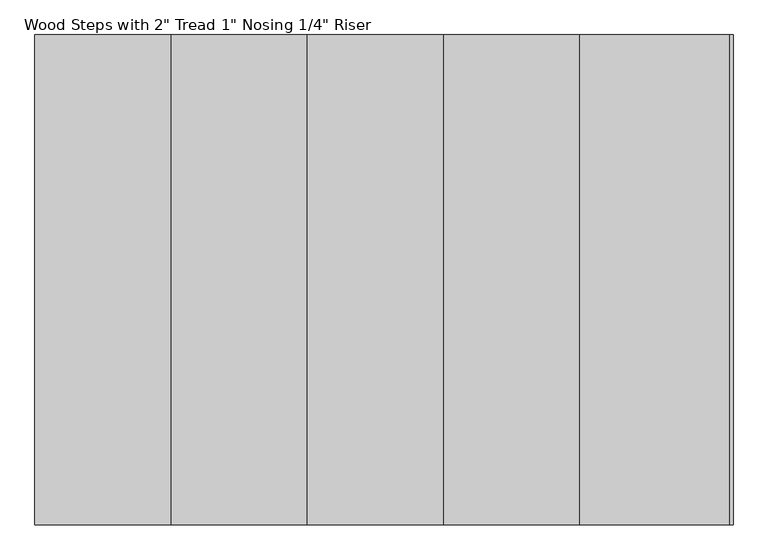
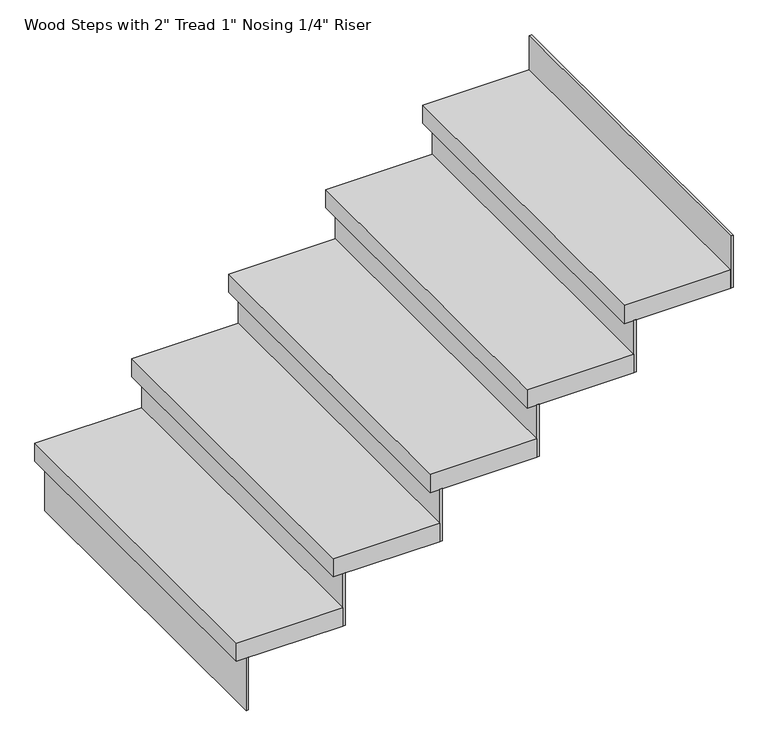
"""IFC4 building model written with IfcOpenShell, lengths in millimetres: stair flight geometry."""

from ifc_helpers import new_model, si_unit, frame, origin, place, context, project, spatial, polyline, outline, extrude, source, transform, mapped, element, save


def stair_flight_eac4b940(model_context):
    return source(origin(), model_context, "Body", "SweptSolid", [
        extrude(outline(polyline([(-19086.4665976, 14638.5127053), (-19092.8165976, 14638.5127053), (-19092.8165976, 15552.9127053), (-19086.4665976, 15552.9127053), (-19086.4665976, 14638.5127053)])), frame((0.0, 0.0, 2126.3428571), z_axis=(0.0, 0.0, 1.0), x_axis=(1.0, 0.0, 0.0)), (0.0, 0.0, 1.0), 145.1428571),
        extrude(outline(polyline([(-18838.8165976, 15552.9127053), (-18838.8165976, 14638.5127053), (-19118.2165976, 14638.5127053), (-19118.2165976, 15552.9127053), (-18838.8165976, 15552.9127053)])), frame((0.0, 0.0, 2271.4857143), z_axis=(0.0, 0.0, 1.0), x_axis=(1.0, 0.0, 0.0)), (0.0, 0.0, 1.0), 50.8),
        extrude(outline(polyline([(-18832.4665976, 14638.5127053), (-18838.8165976, 14638.5127053), (-18838.8165976, 15552.9127053), (-18832.4665976, 15552.9127053), (-18832.4665976, 14638.5127053)])), frame((0.0, 0.0, 2271.4857143), z_axis=(0.0, 0.0, 1.0), x_axis=(1.0, 0.0, 0.0)), (0.0, 0.0, 1.0), 145.1428571),
        extrude(outline(polyline([(-18584.8165976, 15552.9127053), (-18584.8165976, 14638.5127053), (-18864.2165976, 14638.5127053), (-18864.2165976, 15552.9127053), (-18584.8165976, 15552.9127053)])), frame((0.0, 0.0, 2416.6285714), z_axis=(0.0, 0.0, 1.0), x_axis=(1.0, 0.0, 0.0)), (0.0, 0.0, 1.0), 50.8),
        extrude(outline(polyline([(-18578.4665976, 14638.5127053), (-18584.8165976, 14638.5127053), (-18584.8165976, 15552.9127053), (-18578.4665976, 15552.9127053), (-18578.4665976, 14638.5127053)])), frame((0.0, 0.0, 2416.6285714), z_axis=(0.0, 0.0, 1.0), x_axis=(1.0, 0.0, 0.0)), (0.0, 0.0, 1.0), 145.1428571),
        extrude(outline(polyline([(-18330.8165976, 15552.9127053), (-18330.8165976, 14638.5127053), (-18610.2165976, 14638.5127053), (-18610.2165976, 15552.9127053), (-18330.8165976, 15552.9127053)])), frame((0.0, 0.0, 2561.7714286), z_axis=(0.0, 0.0, 1.0), x_axis=(1.0, 0.0, 0.0)), (0.0, 0.0, 1.0), 50.8),
        extrude(outline(polyline([(-18324.4665976, 14638.5127053), (-18330.8165976, 14638.5127053), (-18330.8165976, 15552.9127053), (-18324.4665976, 15552.9127053), (-18324.4665976, 14638.5127053)])), frame((0.0, 0.0, 2561.7714286), z_axis=(0.0, 0.0, 1.0), x_axis=(1.0, 0.0, 0.0)), (0.0, 0.0, 1.0), 145.1428571),
        extrude(outline(polyline([(-18076.8165976, 15552.9127053), (-18076.8165976, 14638.5127053), (-18356.2165976, 14638.5127053), (-18356.2165976, 15552.9127053), (-18076.8165976, 15552.9127053)])), frame((0.0, 0.0, 2706.9142857), z_axis=(0.0, 0.0, 1.0), x_axis=(1.0, 0.0, 0.0)), (0.0, 0.0, 1.0), 50.8),
        extrude(outline(polyline([(-18070.4665976, 14638.5127053), (-18076.8165976, 14638.5127053), (-18076.8165976, 15552.9127053), (-18070.4665976, 15552.9127053), (-18070.4665976, 14638.5127053)])), frame((0.0, 0.0, 2706.9142857), z_axis=(0.0, 0.0, 1.0), x_axis=(1.0, 0.0, 0.0)), (0.0, 0.0, 1.0), 145.1428571),
        extrude(outline(polyline([(-17816.4665976, 14638.5127053), (-17822.8165976, 14638.5127053), (-17822.8165976, 15552.9127053), (-17816.4665976, 15552.9127053), (-17816.4665976, 14638.5127053)])), frame((0.0, 0.0, 2852.0571429), z_axis=(0.0, 0.0, 1.0), x_axis=(1.0, 0.0, 0.0)), (0.0, 0.0, 1.0), 145.1428571),
        extrude(outline(polyline([(-17822.8165976, 15552.9127053), (-17822.8165976, 14638.5127053), (-18102.2165976, 14638.5127053), (-18102.2165976, 15552.9127053), (-17822.8165976, 15552.9127053)])), frame((0.0, 0.0, 2852.0571429), z_axis=(0.0, 0.0, 1.0), x_axis=(1.0, 0.0, 0.0)), (0.0, 0.0, 1.0), 50.8),
    ])


if __name__ == "__main__":
    model = new_model("IFC4")
    model_context = context("Model", 3, world=origin())
    ifc_project = project(units=[si_unit("LENGTHUNIT", "METRE", prefix="MILLI")], contexts=[model_context])
    site = spatial("IfcSite", under=ifc_project)
    building = spatial("IfcBuilding", under=site)
    placement = place(None, origin())
    stair_flight_shape = stair_flight_eac4b940(model_context)
    element("IfcStairFlight", 1, ObjectType="Wood Steps with 2\" Tread 1\" Nosing 1/4\" Riser", at=placement, inside=building, context=model_context, shape_type="MappedRepresentation", body=[
        mapped(stair_flight_shape, transform((0.0, 0.0, 0.0), x_axis=(1.0, 0.0, 0.0), y_axis=(0.0, 1.0, 0.0), z_axis=(0.0, 0.0, 1.0))),
    ])
    save(model, "model.ifc")
